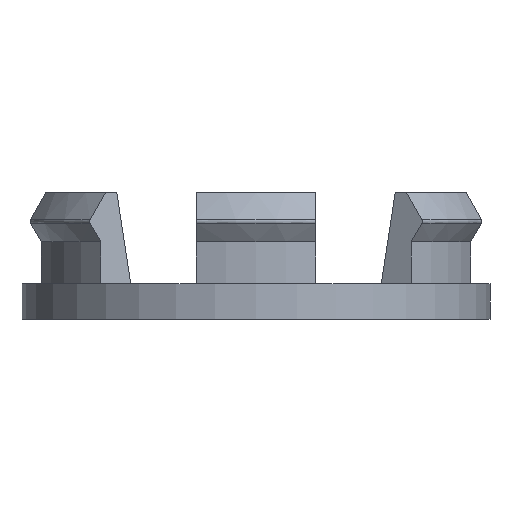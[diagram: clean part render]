
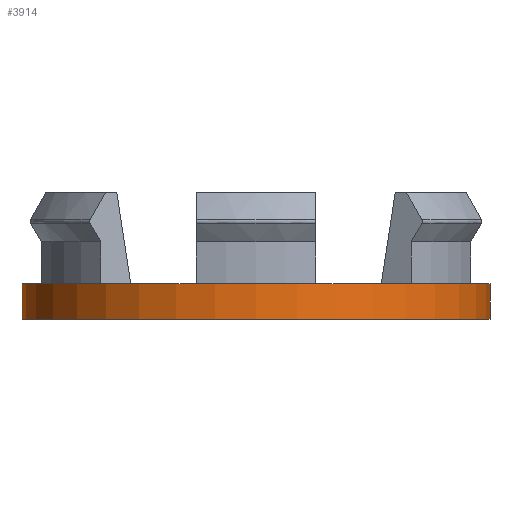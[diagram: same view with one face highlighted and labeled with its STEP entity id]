
A CAD part, front view. The second image highlights one B-rep face of the part: STEP entity #3914.
In plain terms, the highlighted cylindrical face has radius 32.9 mm (diameter 65.8 mm), a full revolution.
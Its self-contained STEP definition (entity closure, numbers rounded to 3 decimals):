
#361=FACE_OUTER_BOUND('',#583,.T.);
#583=EDGE_LOOP('',(#3596,#3597,#3598,#3599));
#891=LINE('',#6927,#1199);
#1199=VECTOR('',#5576,32.9);
#1218=CIRCLE('',#3978,32.9);
#1443=CIRCLE('',#4373,32.9);
#1552=VERTEX_POINT('',#6023);
#1835=VERTEX_POINT('',#6924);
#1974=EDGE_CURVE('',#1552,#1552,#1218,.T.);
#2422=EDGE_CURVE('',#1835,#1835,#1443,.T.);
#2423=EDGE_CURVE('',#1552,#1835,#891,.T.);
#3596=ORIENTED_EDGE('',*,*,#1974,.F.);
#3597=ORIENTED_EDGE('',*,*,#2423,.T.);
#3598=ORIENTED_EDGE('',*,*,#2422,.F.);
#3599=ORIENTED_EDGE('',*,*,#2423,.F.);
#3712=CYLINDRICAL_SURFACE('',#4374,32.9);
#3914=ADVANCED_FACE('',(#361),#3712,.T.);
#3978=AXIS2_PLACEMENT_3D('',#6024,#4559,#4560);
#4373=AXIS2_PLACEMENT_3D('',#6925,#5572,#5573);
#4374=AXIS2_PLACEMENT_3D('',#6926,#5574,#5575);
#4559=DIRECTION('center_axis',(0.,0.,1.));
#4560=DIRECTION('ref_axis',(-1.,0.,0.));
#5572=DIRECTION('center_axis',(0.,0.,-1.));
#5573=DIRECTION('ref_axis',(-1.,0.,0.));
#5574=DIRECTION('center_axis',(0.,0.,-1.));
#5575=DIRECTION('ref_axis',(-1.,0.,0.));
#5576=DIRECTION('',(0.,0.,-1.));
#6023=CARTESIAN_POINT('',(32.852,0.,22.561));
#6024=CARTESIAN_POINT('Origin',(-0.048,0.,22.561));
#6924=CARTESIAN_POINT('',(32.852,0.,17.507));
#6925=CARTESIAN_POINT('Origin',(-0.048,0.,17.507));
#6926=CARTESIAN_POINT('Origin',(-0.048,0.,21.264));
#6927=CARTESIAN_POINT('',(32.852,0.,21.264));
